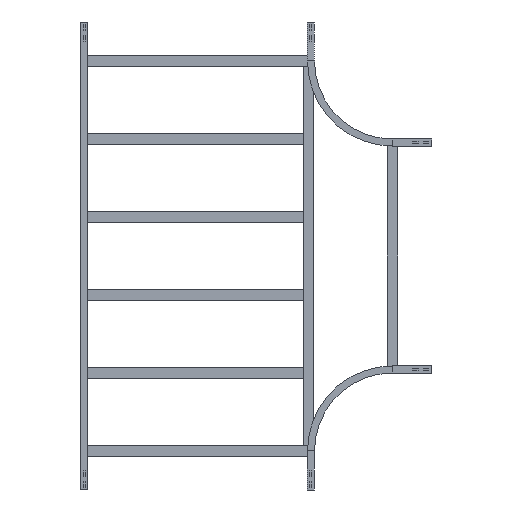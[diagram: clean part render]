
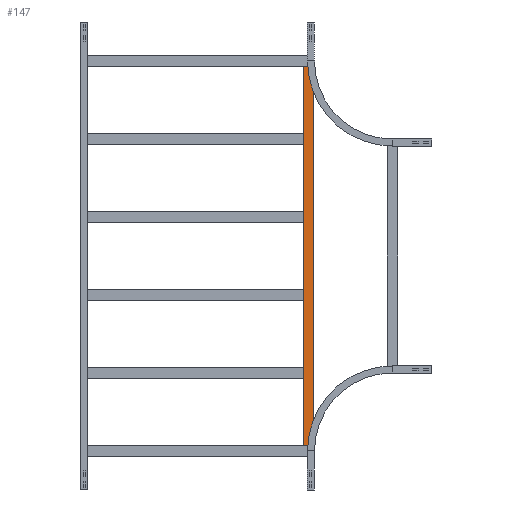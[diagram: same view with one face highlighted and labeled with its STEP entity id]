
A CAD part, front view. The second image highlights one B-rep face of the part: STEP entity #147.
In plain terms, the highlighted planar face has unit normal (0, -1, 0).
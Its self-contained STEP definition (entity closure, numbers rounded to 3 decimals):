
#4 = CARTESIAN_POINT ( 'NONE',  ( -729.75, 0., 20.25 ) ) ;
#77 = CARTESIAN_POINT ( 'NONE',  ( -729.75, 0., 20.25 ) ) ;
#118 = ORIENTED_EDGE ( 'NONE', *, *, #1207, .T. ) ;
#147 = ADVANCED_FACE ( 'NONE', ( #1968 ), #2551, .F. ) ;
#269 = CARTESIAN_POINT ( 'NONE',  ( 729.75, 0., -20.25 ) ) ;
#450 = AXIS2_PLACEMENT_3D ( 'NONE', #2262, #2572, #3757 ) ;
#475 = CARTESIAN_POINT ( 'NONE',  ( -729.75, 0., -20.25 ) ) ;
#477 = ORIENTED_EDGE ( 'NONE', *, *, #1730, .T. ) ;
#700 = CARTESIAN_POINT ( 'NONE',  ( 729.75, 0., 20.25 ) ) ;
#816 = VECTOR ( 'NONE', #1480, 1000. ) ;
#923 = VECTOR ( 'NONE', #1894, 1000. ) ;
#1056 = ORIENTED_EDGE ( 'NONE', *, *, #2919, .F. ) ;
#1081 = CARTESIAN_POINT ( 'NONE',  ( 729.75, 0., 20.25 ) ) ;
#1161 = ORIENTED_EDGE ( 'NONE', *, *, #1835, .F. ) ;
#1207 = EDGE_CURVE ( 'NONE', #1291, #1384, #1819, .T. ) ;
#1291 = VERTEX_POINT ( 'NONE', #77 ) ;
#1384 = VERTEX_POINT ( 'NONE', #475 ) ;
#1440 = VECTOR ( 'NONE', #2725, 1000. ) ;
#1480 = DIRECTION ( 'NONE',  ( -1., 0., 0. ) ) ;
#1582 = LINE ( 'NONE', #2774, #2246 ) ;
#1730 = EDGE_CURVE ( 'NONE', #3450, #1291, #3662, .T. ) ;
#1819 = LINE ( 'NONE', #4, #1440 ) ;
#1835 = EDGE_CURVE ( 'NONE', #2968, #1384, #2624, .T. ) ;
#1894 = DIRECTION ( 'NONE',  ( -1., 0., 0. ) ) ;
#1968 = FACE_OUTER_BOUND ( 'NONE', #3562, .T. ) ;
#2246 = VECTOR ( 'NONE', #2463, 1000. ) ;
#2262 = CARTESIAN_POINT ( 'NONE',  ( 729.75, 0., 20.25 ) ) ;
#2463 = DIRECTION ( 'NONE',  ( 0., 0., -1. ) ) ;
#2551 = PLANE ( 'NONE',  #450 ) ;
#2572 = DIRECTION ( 'NONE',  ( 0., 1., 0. ) ) ;
#2624 = LINE ( 'NONE', #269, #816 ) ;
#2725 = DIRECTION ( 'NONE',  ( 0., 0., -1. ) ) ;
#2774 = CARTESIAN_POINT ( 'NONE',  ( 729.75, 0., 20.25 ) ) ;
#2919 = EDGE_CURVE ( 'NONE', #3450, #2968, #1582, .T. ) ;
#2968 = VERTEX_POINT ( 'NONE', #3659 ) ;
#3450 = VERTEX_POINT ( 'NONE', #1081 ) ;
#3562 = EDGE_LOOP ( 'NONE', ( #118, #1161, #1056, #477 ) ) ;
#3659 = CARTESIAN_POINT ( 'NONE',  ( 729.75, 0., -20.25 ) ) ;
#3662 = LINE ( 'NONE', #700, #923 ) ;
#3757 = DIRECTION ( 'NONE',  ( 0., 0., 1. ) ) ;
